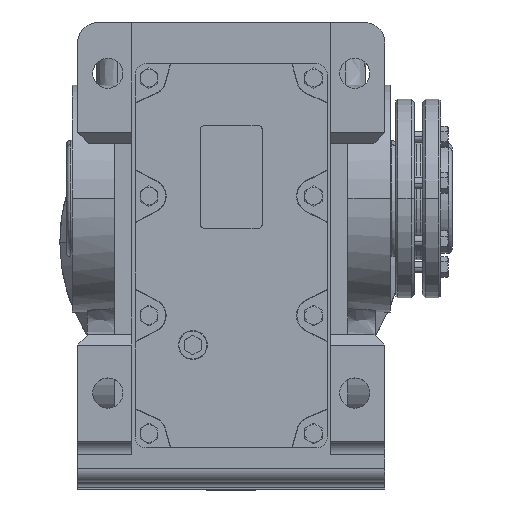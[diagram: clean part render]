
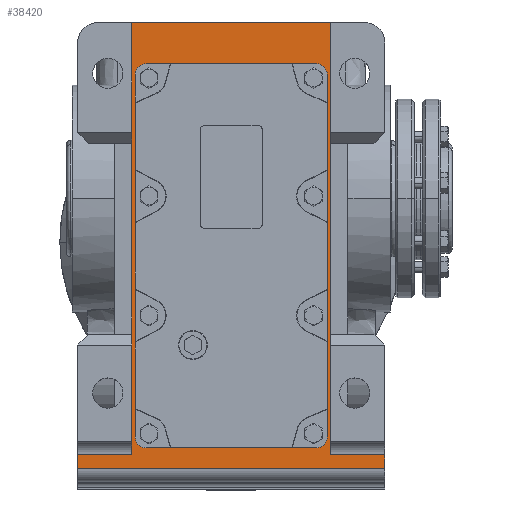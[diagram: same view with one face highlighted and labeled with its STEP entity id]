
A CAD part, top view. The second image highlights one B-rep face of the part: STEP entity #38420.
In plain terms, the highlighted planar face has unit normal (0, 0, 1).
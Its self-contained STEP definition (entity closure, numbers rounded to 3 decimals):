
#560 = CARTESIAN_POINT ( 'NONE',  ( -62., 98., 111. ) ) ;
#561 = CARTESIAN_POINT ( 'NONE',  ( 62., -182., 111. ) ) ;
#798 = CARTESIAN_POINT ( 'NONE',  ( 112., -197., 111. ) ) ;
#1648 = VERTEX_POINT ( 'NONE', #26861 ) ;
#6942 = LINE ( 'NONE', #10428, #6950 ) ;
#6950 = VECTOR ( 'NONE', #10427, 1000. ) ;
#6981 = LINE ( 'NONE', #10477, #6993 ) ;
#6993 = VECTOR ( 'NONE', #10481, 1000. ) ;
#8271 = LINE ( 'NONE', #24515, #8278 ) ;
#8278 = VECTOR ( 'NONE', #24521, 1000. ) ;
#10427 = DIRECTION ( 'NONE',  ( 0., 1., 0. ) ) ;
#10428 = CARTESIAN_POINT ( 'NONE',  ( 70., 90., 111. ) ) ;
#10477 = CARTESIAN_POINT ( 'NONE',  ( 62., 98., 111. ) ) ;
#10481 = DIRECTION ( 'NONE',  ( -1., 0., 0. ) ) ;
#10759 = CARTESIAN_POINT ( 'NONE',  ( -112., -197., 111. ) ) ;
#11009 = CARTESIAN_POINT ( 'NONE',  ( -72.5, -187., 111. ) ) ;
#11017 = CARTESIAN_POINT ( 'NONE',  ( -70., 90., 111. ) ) ;
#11071 = VERTEX_POINT ( 'NONE', #10759 ) ;
#11321 = VERTEX_POINT ( 'NONE', #11009 ) ;
#11329 = VERTEX_POINT ( 'NONE', #11017 ) ;
#11367 = CARTESIAN_POINT ( 'NONE',  ( 72.5, -187., 111. ) ) ;
#11368 = CARTESIAN_POINT ( 'NONE',  ( 70., 90., 111. ) ) ;
#11369 = CARTESIAN_POINT ( 'NONE',  ( -70., -174., 111. ) ) ;
#13101 = VERTEX_POINT ( 'NONE', #11367 ) ;
#13102 = VERTEX_POINT ( 'NONE', #11368 ) ;
#13103 = VERTEX_POINT ( 'NONE', #11369 ) ;
#13469 = EDGE_CURVE ( 'NONE', #11071, #58998, #8271, .T. ) ;
#16692 = CARTESIAN_POINT ( 'NONE',  ( 72.5, -212., 111. ) ) ;
#16693 = DIRECTION ( 'NONE',  ( 0., 1., 0. ) ) ;
#16698 = CARTESIAN_POINT ( 'NONE',  ( -72.5, 128., 111. ) ) ;
#16699 = DIRECTION ( 'NONE',  ( -1., 0., 0. ) ) ;
#16700 = CARTESIAN_POINT ( 'NONE',  ( -72.5, -212., 111. ) ) ;
#16701 = DIRECTION ( 'NONE',  ( 0., 1., 0. ) ) ;
#17299 = PLANE ( 'NONE',  #39338 ) ;
#17304 = CARTESIAN_POINT ( 'NONE',  ( -72.5, -212., 111. ) ) ;
#17305 = DIRECTION ( 'NONE',  ( 0., 0., -1. ) ) ;
#17306 = DIRECTION ( 'NONE',  ( 0., 1., 0. ) ) ;
#24463 = ORIENTED_EDGE ( 'NONE', *, *, #50662, .F. ) ;
#24464 = ORIENTED_EDGE ( 'NONE', *, *, #50829, .F. ) ;
#24465 = ORIENTED_EDGE ( 'NONE', *, *, #50424, .F. ) ;
#24466 = ORIENTED_EDGE ( 'NONE', *, *, #50617, .F. ) ;
#24467 = ORIENTED_EDGE ( 'NONE', *, *, #50668, .F. ) ;
#24515 = CARTESIAN_POINT ( 'NONE',  ( -112., -181., 111. ) ) ;
#24521 = DIRECTION ( 'NONE',  ( 0., 1., 0. ) ) ;
#26500 = CARTESIAN_POINT ( 'NONE',  ( -72.5, 128., 111. ) ) ;
#26528 = CARTESIAN_POINT ( 'NONE',  ( 62., 98., 111. ) ) ;
#26542 = CARTESIAN_POINT ( 'NONE',  ( 70., -174., 111. ) ) ;
#26684 = CARTESIAN_POINT ( 'NONE',  ( -62., -182., 111. ) ) ;
#26703 = CARTESIAN_POINT ( 'NONE',  ( -112., -187., 111. ) ) ;
#26861 = CARTESIAN_POINT ( 'NONE',  ( 72.5, 128., 111. ) ) ;
#27348 = CARTESIAN_POINT ( 'NONE',  ( -72.5, -187., 111. ) ) ;
#27353 = DIRECTION ( 'NONE',  ( -1., 0., 0. ) ) ;
#27491 = CARTESIAN_POINT ( 'NONE',  ( -62., -174., 111. ) ) ;
#27492 = DIRECTION ( 'NONE',  ( 0., 0., 1. ) ) ;
#27493 = DIRECTION ( 'NONE',  ( 1., 0., 0. ) ) ;
#27620 = DIRECTION ( 'NONE',  ( 0., 1., 0. ) ) ;
#27627 = CARTESIAN_POINT ( 'NONE',  ( 112., -181., 111. ) ) ;
#27692 = CARTESIAN_POINT ( 'NONE',  ( -70., 90., 111. ) ) ;
#27733 = DIRECTION ( 'NONE',  ( 1., 0., 0. ) ) ;
#27739 = CARTESIAN_POINT ( 'NONE',  ( 112., -197., 111. ) ) ;
#27741 = DIRECTION ( 'NONE',  ( 0., -1., 0. ) ) ;
#27792 = CARTESIAN_POINT ( 'NONE',  ( 62., -174., 111. ) ) ;
#27793 = DIRECTION ( 'NONE',  ( 0., 0., 1. ) ) ;
#27794 = DIRECTION ( 'NONE',  ( 1., 0., 0. ) ) ;
#27799 = CARTESIAN_POINT ( 'NONE',  ( -72.5, -187., 111. ) ) ;
#27801 = CARTESIAN_POINT ( 'NONE',  ( -62., 90., 111. ) ) ;
#27802 = DIRECTION ( 'NONE',  ( 0., 0., 1. ) ) ;
#27803 = DIRECTION ( 'NONE',  ( -1., 0., 0. ) ) ;
#27805 = DIRECTION ( 'NONE',  ( -1., 0., 0. ) ) ;
#28045 = CARTESIAN_POINT ( 'NONE',  ( 62., -182., 111. ) ) ;
#28046 = DIRECTION ( 'NONE',  ( 1., 0., 0. ) ) ;
#28063 = CARTESIAN_POINT ( 'NONE',  ( 62., 90., 111. ) ) ;
#28064 = DIRECTION ( 'NONE',  ( 0., 0., 1. ) ) ;
#28065 = DIRECTION ( 'NONE',  ( 1., 0., 0. ) ) ;
#29268 = CIRCLE ( 'NONE', #35268, 8. ) ;
#29413 = LINE ( 'NONE', #27627, #29424 ) ;
#29424 = VECTOR ( 'NONE', #27620, 1000. ) ;
#29580 = LINE ( 'NONE', #27692, #29604 ) ;
#29604 = VECTOR ( 'NONE', #27741, 1000. ) ;
#29638 = LINE ( 'NONE', #27739, #29643 ) ;
#29643 = VECTOR ( 'NONE', #27733, 1000. ) ;
#29669 = CIRCLE ( 'NONE', #35279, 8. ) ;
#29675 = CIRCLE ( 'NONE', #35278, 8. ) ;
#29690 = LINE ( 'NONE', #27799, #29696 ) ;
#29696 = VECTOR ( 'NONE', #27805, 1000. ) ;
#29914 = LINE ( 'NONE', #28045, #29920 ) ;
#29920 = VECTOR ( 'NONE', #28046, 1000. ) ;
#29922 = CIRCLE ( 'NONE', #35291, 8. ) ;
#30984 = LINE ( 'NONE', #16692, #30987 ) ;
#30987 = VECTOR ( 'NONE', #16693, 1000. ) ;
#30990 = LINE ( 'NONE', #16698, #30993 ) ;
#30992 = LINE ( 'NONE', #16700, #30995 ) ;
#30993 = VECTOR ( 'NONE', #16699, 1000. ) ;
#30995 = VECTOR ( 'NONE', #16701, 1000. ) ;
#32930 = LINE ( 'NONE', #27348, #32940 ) ;
#32940 = VECTOR ( 'NONE', #27353, 1000. ) ;
#35035 = VERTEX_POINT ( 'NONE', #45550 ) ;
#35268 = AXIS2_PLACEMENT_3D ( 'NONE', #27491, #27492, #27493 ) ;
#35278 = AXIS2_PLACEMENT_3D ( 'NONE', #27792, #27793, #27794 ) ;
#35279 = AXIS2_PLACEMENT_3D ( 'NONE', #27801, #27802, #27803 ) ;
#35291 = AXIS2_PLACEMENT_3D ( 'NONE', #28063, #28064, #28065 ) ;
#38420 = ADVANCED_FACE ( 'NONE', ( #51223, #51226 ), #17299, .F. ) ;
#39338 = AXIS2_PLACEMENT_3D ( 'NONE', #17304, #17305, #17306 ) ;
#42108 = EDGE_LOOP ( 'NONE', ( #24463, #24464, #24465, #24466, #24467, #44894, #44895, #44896 ) ) ;
#42109 = EDGE_LOOP ( 'NONE', ( #44897, #44898, #44899, #44900, #44901, #44902, #44903, #44904 ) ) ;
#44146 = VERTEX_POINT ( 'NONE', #560 ) ;
#44147 = VERTEX_POINT ( 'NONE', #561 ) ;
#44410 = VERTEX_POINT ( 'NONE', #798 ) ;
#44894 = ORIENTED_EDGE ( 'NONE', *, *, #54052, .F. ) ;
#44895 = ORIENTED_EDGE ( 'NONE', *, *, #50835, .F. ) ;
#44896 = ORIENTED_EDGE ( 'NONE', *, *, #54018, .F. ) ;
#44897 = ORIENTED_EDGE ( 'NONE', *, *, #50517, .T. ) ;
#44898 = ORIENTED_EDGE ( 'NONE', *, *, #50673, .T. ) ;
#44899 = ORIENTED_EDGE ( 'NONE', *, *, #53259, .T. ) ;
#44900 = ORIENTED_EDGE ( 'NONE', *, *, #53262, .T. ) ;
#44901 = ORIENTED_EDGE ( 'NONE', *, *, #53263, .F. ) ;
#44902 = ORIENTED_EDGE ( 'NONE', *, *, #50295, .T. ) ;
#44903 = ORIENTED_EDGE ( 'NONE', *, *, #13469, .F. ) ;
#44904 = ORIENTED_EDGE ( 'NONE', *, *, #50638, .T. ) ;
#45550 = CARTESIAN_POINT ( 'NONE',  ( 112., -187., 111. ) ) ;
#50295 = EDGE_CURVE ( 'NONE', #11321, #58998, #32930, .T. ) ;
#50424 = EDGE_CURVE ( 'NONE', #13103, #58958, #29268, .T. ) ;
#50517 = EDGE_CURVE ( 'NONE', #44410, #35035, #29413, .T. ) ;
#50617 = EDGE_CURVE ( 'NONE', #11329, #13103, #29580, .T. ) ;
#50638 = EDGE_CURVE ( 'NONE', #11071, #44410, #29638, .T. ) ;
#50662 = EDGE_CURVE ( 'NONE', #44147, #58650, #29675, .T. ) ;
#50668 = EDGE_CURVE ( 'NONE', #44146, #11329, #29669, .T. ) ;
#50673 = EDGE_CURVE ( 'NONE', #35035, #13101, #29690, .T. ) ;
#50829 = EDGE_CURVE ( 'NONE', #58958, #44147, #29914, .T. ) ;
#50835 = EDGE_CURVE ( 'NONE', #13102, #58624, #29922, .T. ) ;
#51223 = FACE_BOUND ( 'NONE', #42108, .T. ) ;
#51226 = FACE_OUTER_BOUND ( 'NONE', #42109, .T. ) ;
#53259 = EDGE_CURVE ( 'NONE', #13101, #1648, #30984, .T. ) ;
#53262 = EDGE_CURVE ( 'NONE', #1648, #58568, #30990, .T. ) ;
#53263 = EDGE_CURVE ( 'NONE', #11321, #58568, #30992, .T. ) ;
#54018 = EDGE_CURVE ( 'NONE', #58650, #13102, #6942, .T. ) ;
#54052 = EDGE_CURVE ( 'NONE', #58624, #44146, #6981, .T. ) ;
#58568 = VERTEX_POINT ( 'NONE', #26500 ) ;
#58624 = VERTEX_POINT ( 'NONE', #26528 ) ;
#58650 = VERTEX_POINT ( 'NONE', #26542 ) ;
#58958 = VERTEX_POINT ( 'NONE', #26684 ) ;
#58998 = VERTEX_POINT ( 'NONE', #26703 ) ;
